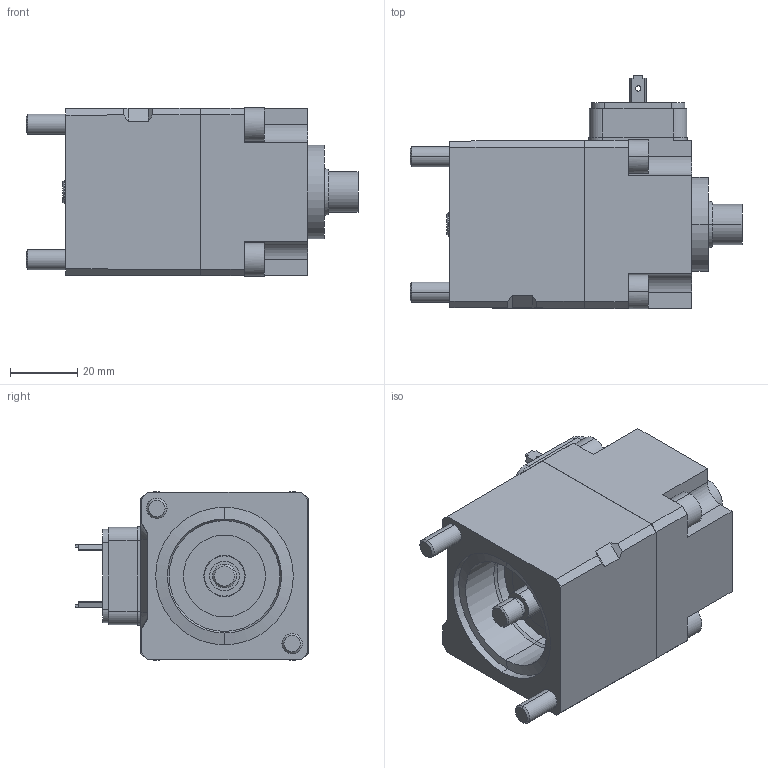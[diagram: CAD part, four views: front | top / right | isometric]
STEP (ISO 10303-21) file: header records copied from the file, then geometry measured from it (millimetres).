
FILE_DESCRIPTION (( 'STEP AP203' ), '1' );
FILE_NAME ('S-0423.STEP', '2018-05-21T10:08:32', ( '' ), ( '' ), 'SwSTEP 2.0', 'SolidWorks 2018', '' );
FILE_SCHEMA (( 'CONFIG_CONTROL_DESIGN' ));
Length unit declared in the file: millimetre
Products named in the file (1): S-0423
Bounding box: 98.9 x 69.65 x 50.3 mm (x, y, z)
Volume: 166460.4 mm3; surface area: 38182.7 mm2
Topology: 3 solids, 3 shells, 412 faces, 1031 edges, 635 vertices
Faces by surface type: plane 218, cylinder 126, cone 60, torus 8
Entity records: 12218 total; most frequent: DIRECTION 2175, CARTESIAN_POINT 2109, ORIENTED_EDGE 2026, EDGE_CURVE 1013, AXIS2_PLACEMENT_3D 757, VECTOR 661, LINE 661, VERTEX_POINT 635
